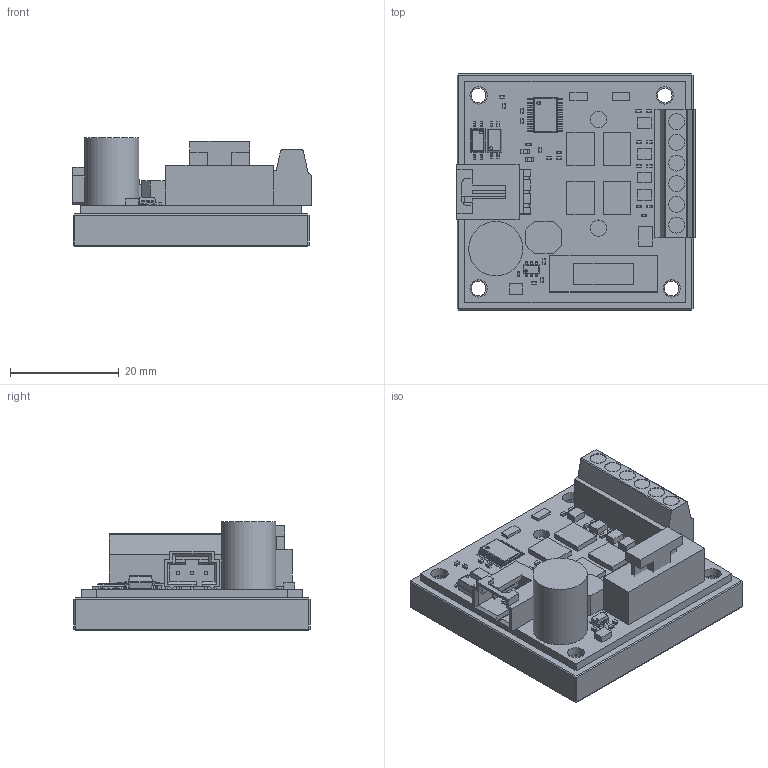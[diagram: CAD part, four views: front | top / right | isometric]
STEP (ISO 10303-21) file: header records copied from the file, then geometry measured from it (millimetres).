
FILE_DESCRIPTION(/* description */ ('Alibre Inc.'),/* implementation_level */ '2;1');
FILE_NAME(/* name */ 'export-A1BD8507-E5ED-4381-95BA-A3B66F90881C',/* time_stamp */ '2022-11-16T12:44:50-07:00',/* author */ (''),/* organization */ (''),/* preprocessor_version */ 'ST-DEVELOPER v17',/* originating_system */ 'Alibre',/* authorisation */ '');
FILE_SCHEMA (('CONFIG_CONTROL_DESIGN'));
Length unit declared in the file: centimetre
Products named in the file (150): 6163456704; Q8; 6163456320; L7; 6163456512; D3; 6223916352; C21; C13; 6163456128; C11; C10; 6126771776; 6126771584; C20; Q7; Q6; Q5; 6126772160; 6126771968; R26; R25; R24; R22; R17; R16; R9; R8; R7; R1; C32; C31; C28; C27; C19; 6126771392; 6126771200; C18; C7; 6126771008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
Bounding box: 43.86 x 43.5 x 20.07 mm (x, y, z)
Volume: 14139.6 mm3; surface area: 14035 mm2
Topology: 202 solids, 202 shells, 2763 faces, 6814 edges, 4482 vertices
Faces by surface type: plane 2524, cylinder 235, sphere 2, bspline 2
Full cylindrical faces by diameter (mm): 0.965 x3, 1 x2, 1.067 x2, 1.321 x6, 1.575 x4, 1.778 x4, 2.7 x4, 3 x4, 3.175 x4, 10 x1
Entity records: 49028 total; most frequent: CARTESIAN_POINT 6609, ORIENTED_EDGE 4956, DIRECTION 4780, EDGE_CURVE 2478, VECTOR 2033, LINE 2033, AXIS2_PLACEMENT_3D 1760, PERSON_AND_ORGANIZATION 1750
